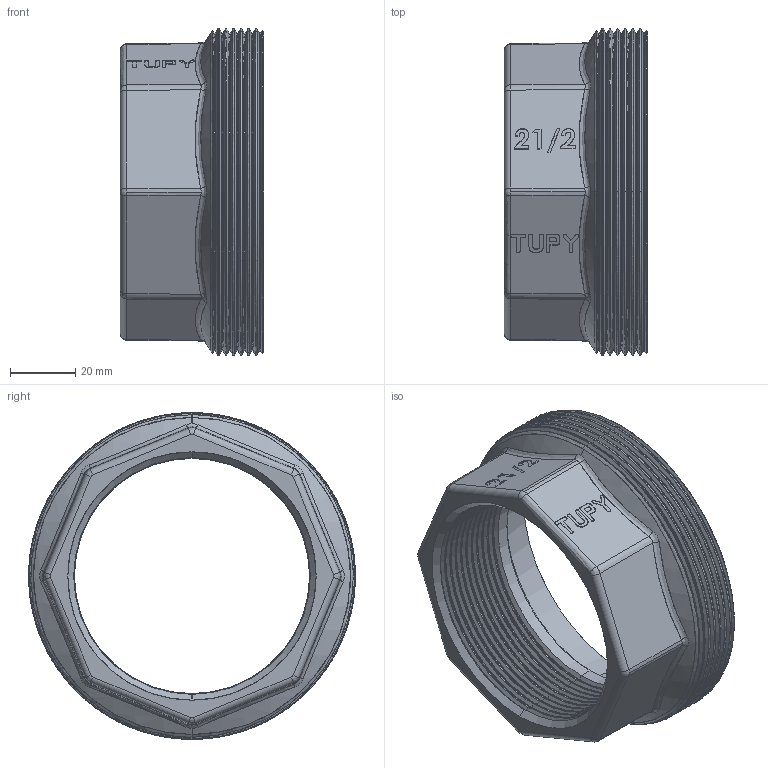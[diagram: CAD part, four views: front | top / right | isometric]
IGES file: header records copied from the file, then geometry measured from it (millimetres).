
Start section: SolidWorks IGES file using analytic representation for surfaces
Global section: file name: C:\Users\alan.martins\Desktop\Nova pasta\12-77-011.IGS; native system: SolidWorks 2012; preprocessor: SolidWorks 2012; author: alan.martins; date: 160323.151713; units: millimetre
Bounding box: 44 x 100.3 x 100.3 mm (x, y, z)
Surface area: 35866.4 mm2 (no closed solid volume)
Topology: 0 solids, 0 shells, 355 faces, 2229 edges, 2229 vertices
Faces by surface type: bspline 251, revolution 104
